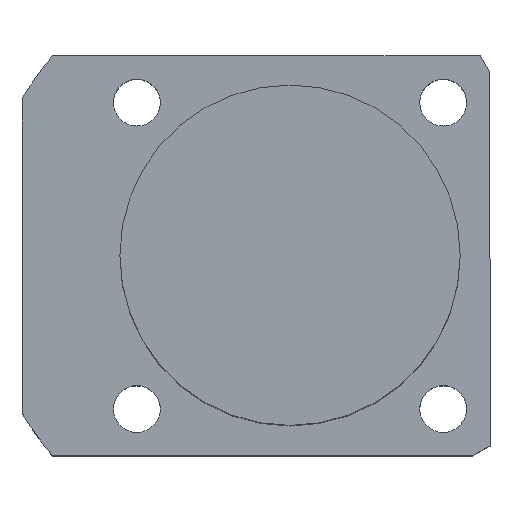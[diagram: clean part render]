
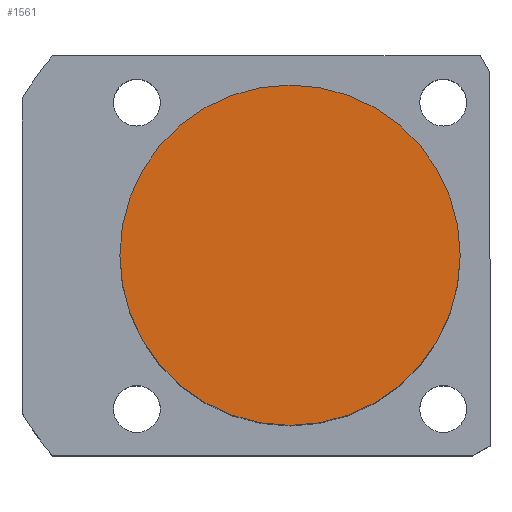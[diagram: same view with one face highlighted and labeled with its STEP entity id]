
A CAD part, top view. The second image highlights one B-rep face of the part: STEP entity #1561.
In plain terms, the highlighted planar face has unit normal (0, 0, 1).
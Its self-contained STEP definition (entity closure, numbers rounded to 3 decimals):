
#28 = EDGE_CURVE ( 'NONE', #875, #1059, #532, .T. ) ;
#220 = DIRECTION ( 'NONE',  ( 0., 0., 1. ) ) ;
#226 = DIRECTION ( 'NONE',  ( 1., 0., 0. ) ) ;
#403 = AXIS2_PLACEMENT_3D ( 'NONE', #930, #1838, #942 ) ;
#473 = EDGE_LOOP ( 'NONE', ( #576, #953 ) ) ;
#532 = CIRCLE ( 'NONE', #403, 20. ) ;
#558 = CARTESIAN_POINT ( 'NONE',  ( 20., 0., 51.5 ) ) ;
#576 = ORIENTED_EDGE ( 'NONE', *, *, #1585, .T. ) ;
#603 = CIRCLE ( 'NONE', #1306, 20. ) ;
#659 = CARTESIAN_POINT ( 'NONE',  ( 0., 0., 51.5 ) ) ;
#812 = DIRECTION ( 'NONE',  ( 1., 0., 0. ) ) ;
#841 = CARTESIAN_POINT ( 'NONE',  ( -20., 0., 51.5 ) ) ;
#875 = VERTEX_POINT ( 'NONE', #558 ) ;
#928 = AXIS2_PLACEMENT_3D ( 'NONE', #1855, #1106, #226 ) ;
#930 = CARTESIAN_POINT ( 'NONE',  ( 0., 0., 51.5 ) ) ;
#942 = DIRECTION ( 'NONE',  ( 1., 0., 0. ) ) ;
#953 = ORIENTED_EDGE ( 'NONE', *, *, #28, .T. ) ;
#1059 = VERTEX_POINT ( 'NONE', #841 ) ;
#1106 = DIRECTION ( 'NONE',  ( 0., 0., 1. ) ) ;
#1251 = PLANE ( 'NONE',  #928 ) ;
#1306 = AXIS2_PLACEMENT_3D ( 'NONE', #659, #220, #812 ) ;
#1467 = FACE_OUTER_BOUND ( 'NONE', #473, .T. ) ;
#1561 = ADVANCED_FACE ( 'NONE', ( #1467 ), #1251, .T. ) ;
#1585 = EDGE_CURVE ( 'NONE', #1059, #875, #603, .T. ) ;
#1838 = DIRECTION ( 'NONE',  ( 0., 0., 1. ) ) ;
#1855 = CARTESIAN_POINT ( 'NONE',  ( 0., 0., 51.5 ) ) ;
